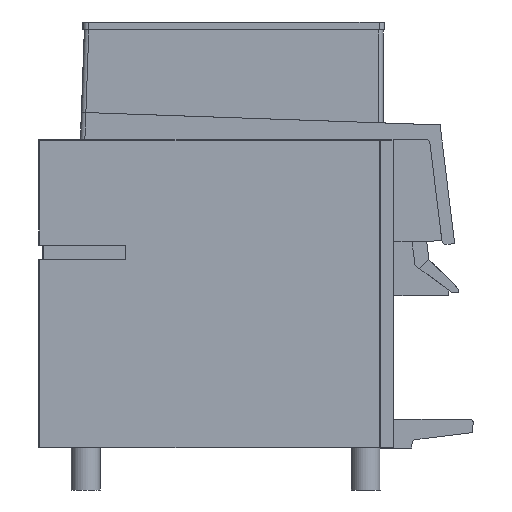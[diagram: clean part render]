
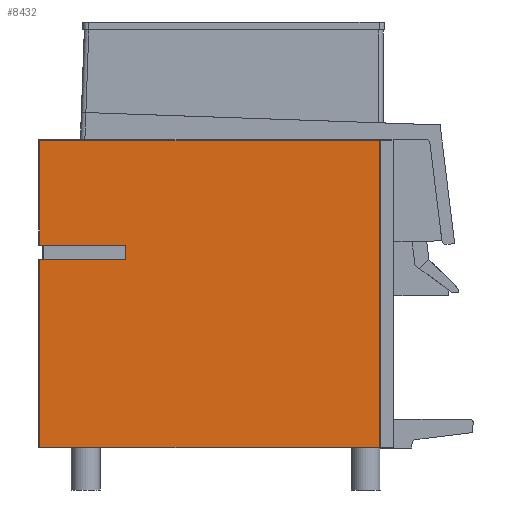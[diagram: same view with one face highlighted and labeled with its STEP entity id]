
A CAD part, left-side view. The second image highlights one B-rep face of the part: STEP entity #8432.
In plain terms, the highlighted planar face has unit normal (-1, 0, 0).
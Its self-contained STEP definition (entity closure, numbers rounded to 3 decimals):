
#478=LINE('',#11778,#1175);
#525=LINE('',#11889,#1222);
#526=LINE('',#11891,#1223);
#527=LINE('',#11893,#1224);
#528=LINE('',#11895,#1225);
#529=LINE('',#11897,#1226);
#530=LINE('',#11899,#1227);
#531=LINE('',#11901,#1228);
#532=LINE('',#11903,#1229);
#533=LINE('',#11905,#1230);
#1175=VECTOR('',#9831,1000.);
#1222=VECTOR('',#9926,1000.);
#1223=VECTOR('',#9927,1000.);
#1224=VECTOR('',#9928,1000.);
#1225=VECTOR('',#9929,1000.);
#1226=VECTOR('',#9930,1000.);
#1227=VECTOR('',#9931,1000.);
#1228=VECTOR('',#9932,1000.);
#1229=VECTOR('',#9933,1000.);
#1230=VECTOR('',#9934,1000.);
#2099=ORIENTED_EDGE('',*,*,#3769,.F.);
#2100=ORIENTED_EDGE('',*,*,#3828,.T.);
#2101=ORIENTED_EDGE('',*,*,#3829,.T.);
#2102=ORIENTED_EDGE('',*,*,#3830,.T.);
#2103=ORIENTED_EDGE('',*,*,#3831,.F.);
#2104=ORIENTED_EDGE('',*,*,#3832,.F.);
#2105=ORIENTED_EDGE('',*,*,#3833,.F.);
#2106=ORIENTED_EDGE('',*,*,#3834,.T.);
#2107=ORIENTED_EDGE('',*,*,#3835,.T.);
#2108=ORIENTED_EDGE('',*,*,#3836,.T.);
#3769=EDGE_CURVE('',#4617,#4618,#478,.T.);
#3828=EDGE_CURVE('',#4617,#4658,#525,.T.);
#3829=EDGE_CURVE('',#4658,#4659,#526,.F.);
#3830=EDGE_CURVE('',#4659,#4660,#527,.F.);
#3831=EDGE_CURVE('',#4661,#4660,#528,.T.);
#3832=EDGE_CURVE('',#4662,#4661,#529,.T.);
#3833=EDGE_CURVE('',#4663,#4662,#530,.T.);
#3834=EDGE_CURVE('',#4663,#4664,#531,.T.);
#3835=EDGE_CURVE('',#4664,#4665,#532,.T.);
#3836=EDGE_CURVE('',#4665,#4618,#533,.F.);
#4617=VERTEX_POINT('',#11777);
#4618=VERTEX_POINT('',#11779);
#4658=VERTEX_POINT('',#11890);
#4659=VERTEX_POINT('',#11892);
#4660=VERTEX_POINT('',#11894);
#4661=VERTEX_POINT('',#11896);
#4662=VERTEX_POINT('',#11898);
#4663=VERTEX_POINT('',#11900);
#4664=VERTEX_POINT('',#11902);
#4665=VERTEX_POINT('',#11904);
#5131=EDGE_LOOP('',(#2099,#2100,#2101,#2102,#2103,#2104,#2105,#2106,#2107,
#2108));
#5494=FACE_BOUND('',#5131,.T.);
#5833=PLANE('',#8881);
#8432=ADVANCED_FACE('',(#5494),#5833,.F.);
#8881=AXIS2_PLACEMENT_3D('',#11888,#9924,#9925);
#9831=DIRECTION('',(0.,1.,0.));
#9924=DIRECTION('',(1.,0.,0.));
#9925=DIRECTION('',(0.,1.,0.));
#9926=DIRECTION('',(0.,0.,1.));
#9927=DIRECTION('',(0.,-1.,0.));
#9928=DIRECTION('',(0.,0.,1.));
#9929=DIRECTION('',(0.,1.,0.));
#9930=DIRECTION('',(0.,1.,0.));
#9931=DIRECTION('',(0.,0.,1.));
#9932=DIRECTION('',(0.,1.,0.));
#9933=DIRECTION('',(0.,1.,0.));
#9934=DIRECTION('',(0.,0.,1.));
#11777=CARTESIAN_POINT('',(-394.,-470.,0.));
#11778=CARTESIAN_POINT('',(-394.,-490.,0.));
#11779=CARTESIAN_POINT('',(-394.,-1.2,0.));
#11888=CARTESIAN_POINT('',(-394.,0.,0.));
#11889=CARTESIAN_POINT('',(-394.,-470.,420.5));
#11890=CARTESIAN_POINT('',(-394.,-470.,424.8));
#11891=CARTESIAN_POINT('',(-394.,0.,424.8));
#11892=CARTESIAN_POINT('',(-394.,-1.2,424.8));
#11893=CARTESIAN_POINT('',(-394.,-1.2,0.));
#11894=CARTESIAN_POINT('',(-394.,-1.2,280.));
#11895=CARTESIAN_POINT('',(-394.,-5.,280.));
#11896=CARTESIAN_POINT('',(-394.,-5.133,280.));
#11897=CARTESIAN_POINT('',(-394.,-120.,280.));
#11898=CARTESIAN_POINT('',(-394.,-120.,280.));
#11899=CARTESIAN_POINT('',(-394.,-120.,260.));
#11900=CARTESIAN_POINT('',(-394.,-120.,260.));
#11901=CARTESIAN_POINT('',(-394.,-120.,260.));
#11902=CARTESIAN_POINT('',(-394.,-5.133,260.));
#11903=CARTESIAN_POINT('',(-394.,-5.,260.));
#11904=CARTESIAN_POINT('',(-394.,-1.2,260.));
#11905=CARTESIAN_POINT('',(-394.,-1.2,0.));
